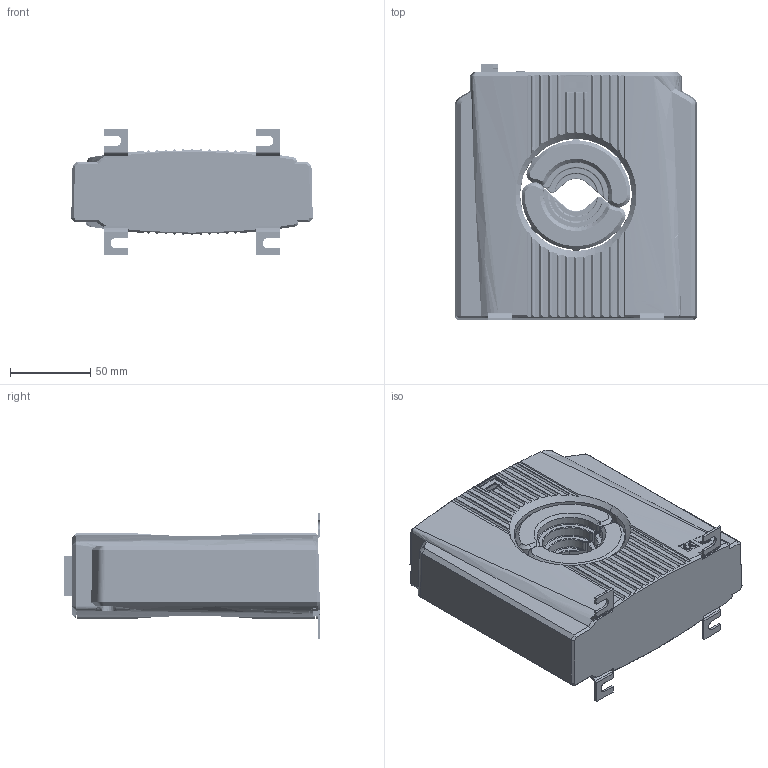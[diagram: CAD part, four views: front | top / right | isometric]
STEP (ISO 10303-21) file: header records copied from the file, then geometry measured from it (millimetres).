
FILE_DESCRIPTION (( 'STEP AP214' ), '1' );
FILE_NAME ('RCMB70_Baugruppe_kpl.STEP', '2021-09-03T15:10:48', ( '' ), ( '' ), 'SwSTEP 2.0', 'SolidWorks 2020', '' );
FILE_SCHEMA (( 'AUTOMOTIVE_DESIGN' ));
Length unit declared in the file: millimetre
Products named in the file (10): Aufkleber_RCMB_70_LED-Abdeckung_8.6.2815; 2451000001; RCM_Zentrierhülse_1.8820_02; RCMB_70_Gehäuseunterteil_2.8450_03; 79712B__26,5-mattssons_79712B  26,5-mattssons; MBS_Fusswinkel_1,5; RCMB70_Baugruppe_kpl; RCMB_70_Gehäuseoberteil_2.8451_01; 2452200001-D RCM PCBA_20200519; EJOT_DELTA_PT_WN_5452_40x20-step
Assembly tree (17 placements, depth 3):
  RCMB70_Baugruppe_kpl
    RCMB_70_Gehäuseunterteil_2.8450_03
    RCMB_70_Gehäuseoberteil_2.8451_01
    2451000001
      Aufkleber_RCMB_70_LED-Abdeckung_8.6.2815
      79712B__26,5-mattssons_79712B  26,5-mattssons  x2
      2452200001-D RCM PCBA_20200519
    MBS_Fusswinkel_1,5  x4
    EJOT_DELTA_PT_WN_5452_40x20-step  x4
    RCM_Zentrierhülse_1.8820_02  x2
Bounding box: 150.86 x 160.1 x 78.8 mm (x, y, z)
Volume: 337629.4 mm3; surface area: 218682 mm2
Topology: 31 solids, 31 shells, 4760 faces, 12242 edges, 7729 vertices
Faces by surface type: plane 2175, bspline 1088, cylinder 991, cone 351, torus 131, sphere 24
Entity records: 231415 total; most frequent: CARTESIAN_POINT 117825, ORIENTED_EDGE 20628, DIRECTION 14031, EDGE_CURVE 10314, VERTEX_POINT 6571, VECTOR 5123, LINE 5123, AXIS2_PLACEMENT_3D 4454
